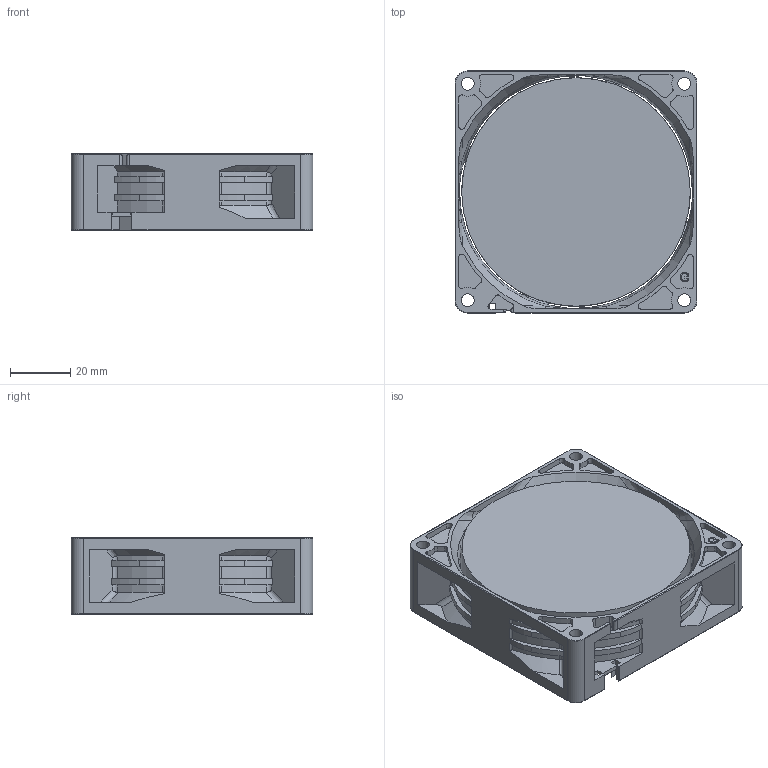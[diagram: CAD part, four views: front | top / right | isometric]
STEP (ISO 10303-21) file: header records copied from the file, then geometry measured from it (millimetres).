
FILE_DESCRIPTION (( 'STEP AP203' ), '1' );
FILE_NAME ('8025G-都寞唳00.STEP', '2025-09-15T10:52:56', ( '' ), ( '' ), 'SwSTEP 2.0', 'SolidWorks 2020', '' );
FILE_SCHEMA (( 'CONFIG_CONTROL_DESIGN' ));
Length unit declared in the file: millimetre
Products named in the file (1): 8025G-都寞唳00
Bounding box: 80 x 80 x 25.3 mm (x, y, z)
Volume: 133910.7 mm3; surface area: 36219.1 mm2
Topology: 1 solids, 1 shells, 521 faces, 1447 edges, 941 vertices
Faces by surface type: cylinder 263, plane 161, bspline 44, cone 30, torus 19, sphere 4
Entity records: 19114 total; most frequent: CARTESIAN_POINT 5747, ORIENTED_EDGE 2884, DIRECTION 2761, EDGE_CURVE 1442, AXIS2_PLACEMENT_3D 1057, VERTEX_POINT 941, LINE 647, VECTOR 647
